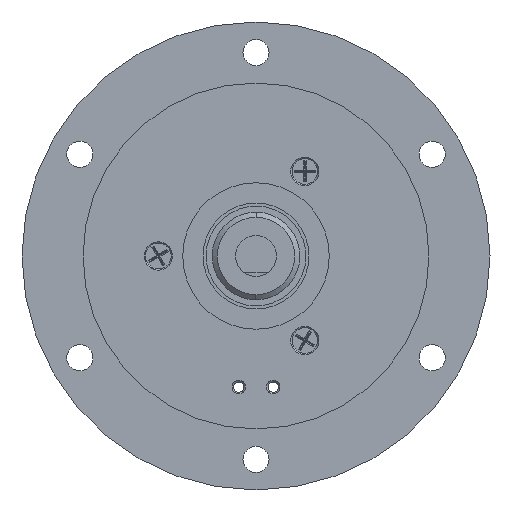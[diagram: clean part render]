
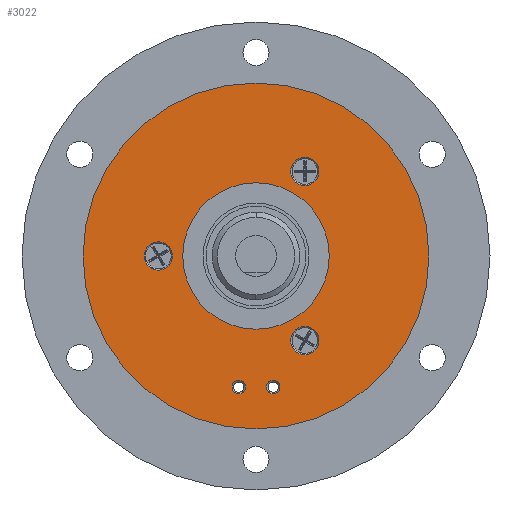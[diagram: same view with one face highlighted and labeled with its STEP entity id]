
A CAD part, left-side view. The second image highlights one B-rep face of the part: STEP entity #3022.
In plain terms, the highlighted planar face has unit normal (-1, 0, 0).
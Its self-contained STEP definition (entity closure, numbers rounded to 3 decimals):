
#25 = DIRECTION ( 'NONE',  ( 0., -0.5, -0.866 ) ) ;
#51 = CARTESIAN_POINT ( 'NONE',  ( -3.572, 20.356, -33.651 ) ) ;
#295 = EDGE_LOOP ( 'NONE', ( #18104, #16591 ) ) ;
#370 = CIRCLE ( 'NONE', #18652, 3.47 ) ;
#1146 = CARTESIAN_POINT ( 'NONE',  ( -3.572, 49.423, 0. ) ) ;
#1198 = CARTESIAN_POINT ( 'NONE',  ( -3.572, 15.158, -17.78 ) ) ;
#1343 = DIRECTION ( 'NONE',  ( 0., 0.5, 0.866 ) ) ;
#1400 = VERTEX_POINT ( 'NONE', #1198 ) ;
#1449 = ORIENTED_EDGE ( 'NONE', *, *, #19543, .F. ) ;
#1532 = CARTESIAN_POINT ( 'NONE',  ( -3.572, 62.229, -21.25 ) ) ;
#1839 = FACE_BOUND ( 'NONE', #4446, .T. ) ;
#2369 = CIRCLE ( 'NONE', #17323, 3.47 ) ;
#2635 = CIRCLE ( 'NONE', #8292, 1.65 ) ;
#2662 = EDGE_CURVE ( 'NONE', #20016, #11347, #5810, .T. ) ;
#2815 = DIRECTION ( 'NONE',  ( -1., 0., 0. ) ) ;
#2939 = ORIENTED_EDGE ( 'NONE', *, *, #5402, .F. ) ;
#3022 = ADVANCED_FACE ( 'NONE', ( #15794, #6326, #9548, #14542, #1839, #4854, #12673 ), #9854, .F. ) ;
#3057 = DIRECTION ( 'NONE',  ( 0., -0.5, -0.866 ) ) ;
#3457 = CARTESIAN_POINT ( 'NONE',  ( -3.572, 11.688, -23.79 ) ) ;
#3463 = CARTESIAN_POINT ( 'NONE',  ( -3.572, 16.423, -15.588 ) ) ;
#3511 = DIRECTION ( 'NONE',  ( 0., 0.5, 0.866 ) ) ;
#3514 = AXIS2_PLACEMENT_3D ( 'NONE', #9431, #15580, #11300 ) ;
#3517 = AXIS2_PLACEMENT_3D ( 'NONE', #1532, #11415, #13091 ) ;
#3807 = VERTEX_POINT ( 'NONE', #12390 ) ;
#4446 = EDGE_LOOP ( 'NONE', ( #2939, #15682 ) ) ;
#4489 = AXIS2_PLACEMENT_3D ( 'NONE', #15405, #9151, #1343 ) ;
#4585 = AXIS2_PLACEMENT_3D ( 'NONE', #17334, #14305, #25 ) ;
#4854 = FACE_OUTER_BOUND ( 'NONE', #6266, .T. ) ;
#5040 = EDGE_LOOP ( 'NONE', ( #8883, #8966 ) ) ;
#5392 = CIRCLE ( 'NONE', #15687, 18. ) ;
#5402 = EDGE_CURVE ( 'NONE', #1400, #8771, #5595, .T. ) ;
#5504 = VERTEX_POINT ( 'NONE', #10975 ) ;
#5573 = EDGE_CURVE ( 'NONE', #5504, #3807, #12903, .T. ) ;
#5595 = CIRCLE ( 'NONE', #19875, 3.47 ) ;
#5740 = DIRECTION ( 'NONE',  ( 0., 0.5, 0.866 ) ) ;
#5810 = CIRCLE ( 'NONE', #4489, 3.47 ) ;
#6003 = DIRECTION ( 'NONE',  ( 0., 0.5, 0.866 ) ) ;
#6266 = EDGE_LOOP ( 'NONE', ( #19289, #7949 ) ) ;
#6326 = FACE_BOUND ( 'NONE', #295, .T. ) ;
#6448 = EDGE_CURVE ( 'NONE', #14359, #16993, #2635, .T. ) ;
#6772 = CARTESIAN_POINT ( 'NONE',  ( -3.572, 21.181, -32.222 ) ) ;
#6781 = VERTEX_POINT ( 'NONE', #18275 ) ;
#7038 = DIRECTION ( 'NONE',  ( 0., 0.5, 0.866 ) ) ;
#7131 = CARTESIAN_POINT ( 'NONE',  ( -3.572, 25.423, 0. ) ) ;
#7169 = EDGE_CURVE ( 'NONE', #3807, #5504, #7997, .T. ) ;
#7668 = CARTESIAN_POINT ( 'NONE',  ( -3.572, 28.84, -33.651 ) ) ;
#7824 = CIRCLE ( 'NONE', #12818, 18. ) ;
#7885 = EDGE_CURVE ( 'NONE', #11347, #20016, #2369, .T. ) ;
#7949 = ORIENTED_EDGE ( 'NONE', *, *, #5573, .F. ) ;
#7973 = AXIS2_PLACEMENT_3D ( 'NONE', #9063, #2815, #12404 ) ;
#7997 = CIRCLE ( 'NONE', #13642, 42.5 ) ;
#8292 = AXIS2_PLACEMENT_3D ( 'NONE', #6772, #9673, #14777 ) ;
#8563 = CIRCLE ( 'NONE', #11558, 3.47 ) ;
#8643 = CARTESIAN_POINT ( 'NONE',  ( -3.572, 34.423, 15.588 ) ) ;
#8656 = EDGE_CURVE ( 'NONE', #13781, #17977, #5392, .T. ) ;
#8682 = DIRECTION ( 'NONE',  ( -1., 0., 0. ) ) ;
#8691 = VERTEX_POINT ( 'NONE', #18860 ) ;
#8771 = VERTEX_POINT ( 'NONE', #3457 ) ;
#8781 = CARTESIAN_POINT ( 'NONE',  ( -3.572, 49.423, 0. ) ) ;
#8883 = ORIENTED_EDGE ( 'NONE', *, *, #19926, .F. ) ;
#8966 = ORIENTED_EDGE ( 'NONE', *, *, #14789, .F. ) ;
#9063 = CARTESIAN_POINT ( 'NONE',  ( -3.572, 13.423, -20.785 ) ) ;
#9151 = DIRECTION ( 'NONE',  ( -1., 0., 0. ) ) ;
#9244 = AXIS2_PLACEMENT_3D ( 'NONE', #18587, #20576, #6003 ) ;
#9326 = DIRECTION ( 'NONE',  ( -1., 0., 0. ) ) ;
#9431 = CARTESIAN_POINT ( 'NONE',  ( -3.572, 21.181, -32.222 ) ) ;
#9548 = FACE_BOUND ( 'NONE', #5040, .T. ) ;
#9673 = DIRECTION ( 'NONE',  ( -1., 0., 0. ) ) ;
#9754 = CARTESIAN_POINT ( 'NONE',  ( -3.572, 13.423, -20.785 ) ) ;
#9854 = PLANE ( 'NONE',  #3517 ) ;
#9964 = DIRECTION ( 'NONE',  ( -1., 0., 0. ) ) ;
#10041 = DIRECTION ( 'NONE',  ( 1., 0., 0. ) ) ;
#10904 = ORIENTED_EDGE ( 'NONE', *, *, #2662, .F. ) ;
#10975 = CARTESIAN_POINT ( 'NONE',  ( -3.572, 46.673, 36.806 ) ) ;
#11173 = DIRECTION ( 'NONE',  ( 1., 0., 0. ) ) ;
#11300 = DIRECTION ( 'NONE',  ( 0., 0.5, 0.866 ) ) ;
#11344 = AXIS2_PLACEMENT_3D ( 'NONE', #13908, #9326, #20258 ) ;
#11347 = VERTEX_POINT ( 'NONE', #17640 ) ;
#11413 = CARTESIAN_POINT ( 'NONE',  ( -3.572, 30.49, -30.793 ) ) ;
#11415 = DIRECTION ( 'NONE',  ( 1., 0., 0. ) ) ;
#11429 = EDGE_CURVE ( 'NONE', #17977, #13781, #7824, .T. ) ;
#11558 = AXIS2_PLACEMENT_3D ( 'NONE', #1146, #15422, #5740 ) ;
#11634 = CIRCLE ( 'NONE', #7973, 3.47 ) ;
#11913 = CIRCLE ( 'NONE', #9244, 1.65 ) ;
#12227 = VERTEX_POINT ( 'NONE', #11413 ) ;
#12347 = ORIENTED_EDGE ( 'NONE', *, *, #11429, .T. ) ;
#12390 = CARTESIAN_POINT ( 'NONE',  ( -3.572, 4.173, -36.806 ) ) ;
#12404 = DIRECTION ( 'NONE',  ( 0., 0.5, 0.866 ) ) ;
#12463 = EDGE_LOOP ( 'NONE', ( #1449, #18488 ) ) ;
#12673 = FACE_BOUND ( 'NONE', #16184, .T. ) ;
#12737 = CARTESIAN_POINT ( 'NONE',  ( -3.572, 25.423, 0. ) ) ;
#12818 = AXIS2_PLACEMENT_3D ( 'NONE', #12737, #11173, #3057 ) ;
#12903 = CIRCLE ( 'NONE', #4585, 42.5 ) ;
#13091 = DIRECTION ( 'NONE',  ( 0., -0.5, -0.866 ) ) ;
#13196 = DIRECTION ( 'NONE',  ( 0., 0.5, 0.866 ) ) ;
#13214 = EDGE_CURVE ( 'NONE', #16993, #14359, #18790, .T. ) ;
#13642 = AXIS2_PLACEMENT_3D ( 'NONE', #7131, #10041, #15139 ) ;
#13781 = VERTEX_POINT ( 'NONE', #3463 ) ;
#13908 = CARTESIAN_POINT ( 'NONE',  ( -3.572, 29.665, -32.222 ) ) ;
#14305 = DIRECTION ( 'NONE',  ( 1., 0., 0. ) ) ;
#14359 = VERTEX_POINT ( 'NONE', #17269 ) ;
#14406 = EDGE_LOOP ( 'NONE', ( #16572, #10904 ) ) ;
#14542 = FACE_BOUND ( 'NONE', #14406, .T. ) ;
#14548 = CARTESIAN_POINT ( 'NONE',  ( -3.572, 13.423, 20.785 ) ) ;
#14777 = DIRECTION ( 'NONE',  ( 0., 0.5, 0.866 ) ) ;
#14789 = EDGE_CURVE ( 'NONE', #6781, #8691, #8563, .T. ) ;
#15139 = DIRECTION ( 'NONE',  ( 0., -0.5, -0.866 ) ) ;
#15405 = CARTESIAN_POINT ( 'NONE',  ( -3.572, 13.423, 20.785 ) ) ;
#15422 = DIRECTION ( 'NONE',  ( -1., 0., 0. ) ) ;
#15536 = EDGE_CURVE ( 'NONE', #20601, #12227, #11913, .T. ) ;
#15580 = DIRECTION ( 'NONE',  ( -1., 0., 0. ) ) ;
#15656 = CIRCLE ( 'NONE', #11344, 1.65 ) ;
#15682 = ORIENTED_EDGE ( 'NONE', *, *, #16805, .F. ) ;
#15687 = AXIS2_PLACEMENT_3D ( 'NONE', #18654, #18754, #17211 ) ;
#15794 = FACE_BOUND ( 'NONE', #12463, .T. ) ;
#16110 = DIRECTION ( 'NONE',  ( -1., 0., 0. ) ) ;
#16184 = EDGE_LOOP ( 'NONE', ( #17510, #12347 ) ) ;
#16572 = ORIENTED_EDGE ( 'NONE', *, *, #7885, .F. ) ;
#16591 = ORIENTED_EDGE ( 'NONE', *, *, #13214, .F. ) ;
#16805 = EDGE_CURVE ( 'NONE', #8771, #1400, #11634, .T. ) ;
#16993 = VERTEX_POINT ( 'NONE', #51 ) ;
#17211 = DIRECTION ( 'NONE',  ( 0., -0.5, -0.866 ) ) ;
#17269 = CARTESIAN_POINT ( 'NONE',  ( -3.572, 22.006, -30.793 ) ) ;
#17323 = AXIS2_PLACEMENT_3D ( 'NONE', #14548, #9964, #13196 ) ;
#17334 = CARTESIAN_POINT ( 'NONE',  ( -3.572, 25.423, 0. ) ) ;
#17510 = ORIENTED_EDGE ( 'NONE', *, *, #8656, .T. ) ;
#17640 = CARTESIAN_POINT ( 'NONE',  ( -3.572, 15.158, 23.79 ) ) ;
#17977 = VERTEX_POINT ( 'NONE', #8643 ) ;
#18104 = ORIENTED_EDGE ( 'NONE', *, *, #6448, .F. ) ;
#18275 = CARTESIAN_POINT ( 'NONE',  ( -3.572, 47.688, -3.005 ) ) ;
#18488 = ORIENTED_EDGE ( 'NONE', *, *, #15536, .F. ) ;
#18554 = CARTESIAN_POINT ( 'NONE',  ( -3.572, 11.688, 17.78 ) ) ;
#18587 = CARTESIAN_POINT ( 'NONE',  ( -3.572, 29.665, -32.222 ) ) ;
#18652 = AXIS2_PLACEMENT_3D ( 'NONE', #8781, #8682, #7038 ) ;
#18654 = CARTESIAN_POINT ( 'NONE',  ( -3.572, 25.423, 0. ) ) ;
#18754 = DIRECTION ( 'NONE',  ( 1., 0., 0. ) ) ;
#18790 = CIRCLE ( 'NONE', #3514, 1.65 ) ;
#18860 = CARTESIAN_POINT ( 'NONE',  ( -3.572, 51.158, 3.005 ) ) ;
#19289 = ORIENTED_EDGE ( 'NONE', *, *, #7169, .F. ) ;
#19543 = EDGE_CURVE ( 'NONE', #12227, #20601, #15656, .T. ) ;
#19875 = AXIS2_PLACEMENT_3D ( 'NONE', #9754, #16110, #3511 ) ;
#19926 = EDGE_CURVE ( 'NONE', #8691, #6781, #370, .T. ) ;
#20016 = VERTEX_POINT ( 'NONE', #18554 ) ;
#20258 = DIRECTION ( 'NONE',  ( 0., 0.5, 0.866 ) ) ;
#20576 = DIRECTION ( 'NONE',  ( -1., 0., 0. ) ) ;
#20601 = VERTEX_POINT ( 'NONE', #7668 ) ;
